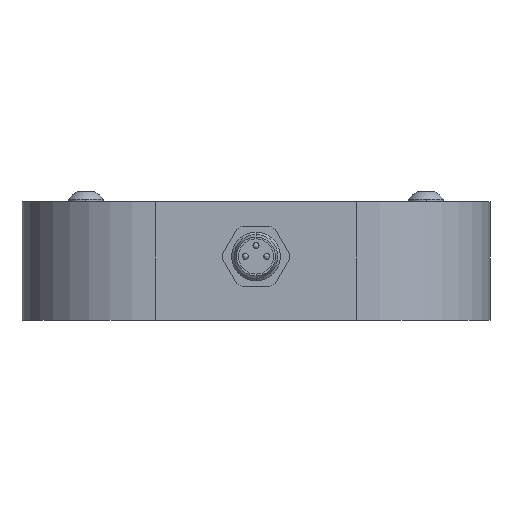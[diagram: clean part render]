
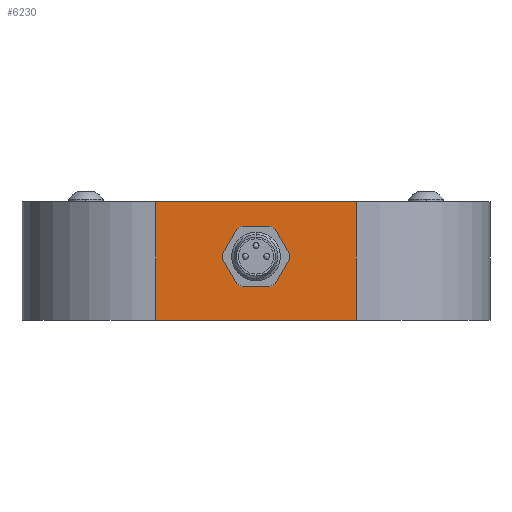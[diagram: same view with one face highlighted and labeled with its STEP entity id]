
A CAD part, front view. The second image highlights one B-rep face of the part: STEP entity #6230.
In plain terms, the highlighted planar face has unit normal (0, -1, 0).
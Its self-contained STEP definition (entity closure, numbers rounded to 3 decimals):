
#23 = CARTESIAN_POINT ( 'NONE',  ( 38.5, 0., 10.5 ) ) ;
#57 = EDGE_CURVE ( 'NONE', #4181, #5155, #3979, .T. ) ;
#117 = DIRECTION ( 'NONE',  ( 0., -1., 0. ) ) ;
#221 = VECTOR ( 'NONE', #5509, 1000. ) ;
#299 = FACE_BOUND ( 'NONE', #730, .T. ) ;
#410 = VECTOR ( 'NONE', #6395, 1000. ) ;
#415 = EDGE_CURVE ( 'NONE', #6305, #425, #4483, .T. ) ;
#425 = VERTEX_POINT ( 'NONE', #3245 ) ;
#492 = CARTESIAN_POINT ( 'NONE',  ( 22., 0., 19.5 ) ) ;
#500 = ORIENTED_EDGE ( 'NONE', *, *, #2933, .F. ) ;
#619 = DIRECTION ( 'NONE',  ( 0., -1., 0. ) ) ;
#630 = DIRECTION ( 'NONE',  ( 0., 0., 1. ) ) ;
#654 = DIRECTION ( 'NONE',  ( 0.5, 0., 0.866 ) ) ;
#713 = LINE ( 'NONE', #2353, #6677 ) ;
#730 = EDGE_LOOP ( 'NONE', ( #4411, #1877, #6906, #1836, #5723, #7499, #5335, #1617, #1533, #2905, #7223, #1213 ) ) ;
#888 = VECTOR ( 'NONE', #654, 1000. ) ;
#904 = LINE ( 'NONE', #3480, #5694 ) ;
#905 = CARTESIAN_POINT ( 'NONE',  ( 38.5, 0., 15.5 ) ) ;
#927 = CARTESIAN_POINT ( 'NONE',  ( 43.976, 0., 9.984 ) ) ;
#995 = LINE ( 'NONE', #2291, #3236 ) ;
#1070 = CARTESIAN_POINT ( 'NONE',  ( 38.5, 0., 10.5 ) ) ;
#1102 = CARTESIAN_POINT ( 'NONE',  ( 55., 0., 19.5 ) ) ;
#1121 = CARTESIAN_POINT ( 'NONE',  ( 33.024, 0., 11.016 ) ) ;
#1139 = CARTESIAN_POINT ( 'NONE',  ( 41.684, 0., 6.016 ) ) ;
#1197 = CARTESIAN_POINT ( 'NONE',  ( 38.5, 0., 10.5 ) ) ;
#1213 = ORIENTED_EDGE ( 'NONE', *, *, #6972, .T. ) ;
#1294 = LINE ( 'NONE', #5746, #410 ) ;
#1533 = ORIENTED_EDGE ( 'NONE', *, *, #4637, .F. ) ;
#1551 = VERTEX_POINT ( 'NONE', #5341 ) ;
#1556 = CIRCLE ( 'NONE', #3704, 5.5 ) ;
#1577 = DIRECTION ( 'NONE',  ( 0., 0., 1. ) ) ;
#1607 = DIRECTION ( 'NONE',  ( 0., -1., 0. ) ) ;
#1617 = ORIENTED_EDGE ( 'NONE', *, *, #57, .T. ) ;
#1779 = ORIENTED_EDGE ( 'NONE', *, *, #1874, .T. ) ;
#1836 = ORIENTED_EDGE ( 'NONE', *, *, #5644, .T. ) ;
#1857 = EDGE_CURVE ( 'NONE', #2679, #3004, #5514, .T. ) ;
#1872 = DIRECTION ( 'NONE',  ( 0., 0., 1. ) ) ;
#1874 = EDGE_CURVE ( 'NONE', #4208, #6505, #713, .T. ) ;
#1877 = ORIENTED_EDGE ( 'NONE', *, *, #4358, .T. ) ;
#1892 = DIRECTION ( 'NONE',  ( 0., -1., 0. ) ) ;
#1911 = DIRECTION ( 'NONE',  ( 0., 0., 1. ) ) ;
#2042 = EDGE_CURVE ( 'NONE', #4208, #5838, #2955, .T. ) ;
#2256 = DIRECTION ( 'NONE',  ( 0., -1., 0. ) ) ;
#2291 = CARTESIAN_POINT ( 'NONE',  ( 22., 0., 0. ) ) ;
#2296 = CARTESIAN_POINT ( 'NONE',  ( 35.316, 0., 6.016 ) ) ;
#2353 = CARTESIAN_POINT ( 'NONE',  ( 22., 0., 19.5 ) ) ;
#2389 = DIRECTION ( 'NONE',  ( 1., 0., 0. ) ) ;
#2478 = VERTEX_POINT ( 'NONE', #3311 ) ;
#2537 = VERTEX_POINT ( 'NONE', #2296 ) ;
#2539 = AXIS2_PLACEMENT_3D ( 'NONE', #7578, #2585, #630 ) ;
#2585 = DIRECTION ( 'NONE',  ( 0., -1., 0. ) ) ;
#2679 = VERTEX_POINT ( 'NONE', #6324 ) ;
#2820 = VERTEX_POINT ( 'NONE', #4624 ) ;
#2844 = CARTESIAN_POINT ( 'NONE',  ( 38.5, 0., 5.5 ) ) ;
#2905 = ORIENTED_EDGE ( 'NONE', *, *, #3257, .T. ) ;
#2933 = EDGE_CURVE ( 'NONE', #5838, #8060, #4341, .T. ) ;
#2942 = DIRECTION ( 'NONE',  ( 0., 0., 1. ) ) ;
#2955 = LINE ( 'NONE', #492, #7051 ) ;
#3004 = VERTEX_POINT ( 'NONE', #1139 ) ;
#3102 = LINE ( 'NONE', #927, #4499 ) ;
#3131 = AXIS2_PLACEMENT_3D ( 'NONE', #1197, #619, #1872 ) ;
#3236 = VECTOR ( 'NONE', #3564, 1000. ) ;
#3245 = CARTESIAN_POINT ( 'NONE',  ( 33.024, 0., 9.984 ) ) ;
#3257 = EDGE_CURVE ( 'NONE', #2820, #1551, #1294, .T. ) ;
#3267 = CIRCLE ( 'NONE', #2539, 5.5 ) ;
#3311 = CARTESIAN_POINT ( 'NONE',  ( 35.316, 0., 14.984 ) ) ;
#3452 = EDGE_CURVE ( 'NONE', #6505, #8060, #995, .T. ) ;
#3480 = CARTESIAN_POINT ( 'NONE',  ( 35.316, 0., 6.016 ) ) ;
#3564 = DIRECTION ( 'NONE',  ( 1., 0., 0. ) ) ;
#3704 = AXIS2_PLACEMENT_3D ( 'NONE', #1070, #1607, #1577 ) ;
#3707 = EDGE_CURVE ( 'NONE', #6305, #2478, #3830, .T. ) ;
#3830 = LINE ( 'NONE', #5629, #888 ) ;
#3979 = LINE ( 'NONE', #905, #5252 ) ;
#3993 = CARTESIAN_POINT ( 'NONE',  ( 36.209, 0., 5.5 ) ) ;
#4181 = VERTEX_POINT ( 'NONE', #5516 ) ;
#4208 = VERTEX_POINT ( 'NONE', #6139 ) ;
#4341 = LINE ( 'NONE', #4951, #221 ) ;
#4358 = EDGE_CURVE ( 'NONE', #2679, #4585, #4668, .T. ) ;
#4411 = ORIENTED_EDGE ( 'NONE', *, *, #1857, .F. ) ;
#4416 = EDGE_CURVE ( 'NONE', #5004, #1551, #3267, .T. ) ;
#4483 = CIRCLE ( 'NONE', #5672, 5.5 ) ;
#4499 = VECTOR ( 'NONE', #7681, 1000. ) ;
#4561 = CIRCLE ( 'NONE', #8036, 5.5 ) ;
#4585 = VERTEX_POINT ( 'NONE', #3993 ) ;
#4624 = CARTESIAN_POINT ( 'NONE',  ( 41.684, 0., 14.984 ) ) ;
#4637 = EDGE_CURVE ( 'NONE', #2820, #5155, #4561, .T. ) ;
#4668 = LINE ( 'NONE', #2844, #5333 ) ;
#4699 = CARTESIAN_POINT ( 'NONE',  ( 22., 0., 0. ) ) ;
#4775 = EDGE_CURVE ( 'NONE', #4181, #2478, #6978, .T. ) ;
#4951 = CARTESIAN_POINT ( 'NONE',  ( 55., 0., 19.5 ) ) ;
#5004 = VERTEX_POINT ( 'NONE', #7694 ) ;
#5102 = FACE_OUTER_BOUND ( 'NONE', #7006, .T. ) ;
#5155 = VERTEX_POINT ( 'NONE', #7830 ) ;
#5252 = VECTOR ( 'NONE', #5312, 1000. ) ;
#5312 = DIRECTION ( 'NONE',  ( 1., 0., 0. ) ) ;
#5333 = VECTOR ( 'NONE', #5898, 1000. ) ;
#5335 = ORIENTED_EDGE ( 'NONE', *, *, #4775, .F. ) ;
#5341 = CARTESIAN_POINT ( 'NONE',  ( 43.976, 0., 11.016 ) ) ;
#5399 = DIRECTION ( 'NONE',  ( -0.5, 0., 0.866 ) ) ;
#5447 = CARTESIAN_POINT ( 'NONE',  ( 22., 0., 19.5 ) ) ;
#5509 = DIRECTION ( 'NONE',  ( 0., 0., -1. ) ) ;
#5514 = CIRCLE ( 'NONE', #6080, 5.5 ) ;
#5516 = CARTESIAN_POINT ( 'NONE',  ( 36.209, 0., 15.5 ) ) ;
#5629 = CARTESIAN_POINT ( 'NONE',  ( 33.024, 0., 11.016 ) ) ;
#5644 = EDGE_CURVE ( 'NONE', #2537, #425, #904, .T. ) ;
#5672 = AXIS2_PLACEMENT_3D ( 'NONE', #7546, #117, #1911 ) ;
#5694 = VECTOR ( 'NONE', #5399, 1000. ) ;
#5723 = ORIENTED_EDGE ( 'NONE', *, *, #415, .F. ) ;
#5746 = CARTESIAN_POINT ( 'NONE',  ( 41.684, 0., 14.984 ) ) ;
#5838 = VERTEX_POINT ( 'NONE', #1102 ) ;
#5898 = DIRECTION ( 'NONE',  ( -1., 0., 0. ) ) ;
#6039 = DIRECTION ( 'NONE',  ( 0., 1., 0. ) ) ;
#6080 = AXIS2_PLACEMENT_3D ( 'NONE', #23, #1892, #7100 ) ;
#6139 = CARTESIAN_POINT ( 'NONE',  ( 22., 0., 19.5 ) ) ;
#6222 = EDGE_CURVE ( 'NONE', #2537, #4585, #1556, .T. ) ;
#6230 = ADVANCED_FACE ( 'NONE', ( #299, #5102 ), #6609, .F. ) ;
#6305 = VERTEX_POINT ( 'NONE', #1121 ) ;
#6324 = CARTESIAN_POINT ( 'NONE',  ( 40.791, 0., 5.5 ) ) ;
#6363 = CARTESIAN_POINT ( 'NONE',  ( 55., 0., 0. ) ) ;
#6395 = DIRECTION ( 'NONE',  ( 0.5, 0., -0.866 ) ) ;
#6505 = VERTEX_POINT ( 'NONE', #4699 ) ;
#6609 = PLANE ( 'NONE',  #7028 ) ;
#6677 = VECTOR ( 'NONE', #7121, 1000. ) ;
#6906 = ORIENTED_EDGE ( 'NONE', *, *, #6222, .F. ) ;
#6972 = EDGE_CURVE ( 'NONE', #5004, #3004, #3102, .T. ) ;
#6978 = CIRCLE ( 'NONE', #3131, 5.5 ) ;
#7006 = EDGE_LOOP ( 'NONE', ( #7510, #500, #7889, #1779 ) ) ;
#7028 = AXIS2_PLACEMENT_3D ( 'NONE', #5447, #6039, #7202 ) ;
#7051 = VECTOR ( 'NONE', #2389, 1000. ) ;
#7100 = DIRECTION ( 'NONE',  ( 0., 0., 1. ) ) ;
#7121 = DIRECTION ( 'NONE',  ( 0., 0., -1. ) ) ;
#7202 = DIRECTION ( 'NONE',  ( 0., 0., 1. ) ) ;
#7223 = ORIENTED_EDGE ( 'NONE', *, *, #4416, .F. ) ;
#7499 = ORIENTED_EDGE ( 'NONE', *, *, #3707, .T. ) ;
#7510 = ORIENTED_EDGE ( 'NONE', *, *, #3452, .T. ) ;
#7546 = CARTESIAN_POINT ( 'NONE',  ( 38.5, 0., 10.5 ) ) ;
#7578 = CARTESIAN_POINT ( 'NONE',  ( 38.5, 0., 10.5 ) ) ;
#7681 = DIRECTION ( 'NONE',  ( -0.5, 0., -0.866 ) ) ;
#7694 = CARTESIAN_POINT ( 'NONE',  ( 43.976, 0., 9.984 ) ) ;
#7830 = CARTESIAN_POINT ( 'NONE',  ( 40.791, 0., 15.5 ) ) ;
#7889 = ORIENTED_EDGE ( 'NONE', *, *, #2042, .F. ) ;
#7935 = CARTESIAN_POINT ( 'NONE',  ( 38.5, 0., 10.5 ) ) ;
#8036 = AXIS2_PLACEMENT_3D ( 'NONE', #7935, #2256, #2942 ) ;
#8060 = VERTEX_POINT ( 'NONE', #6363 ) ;
